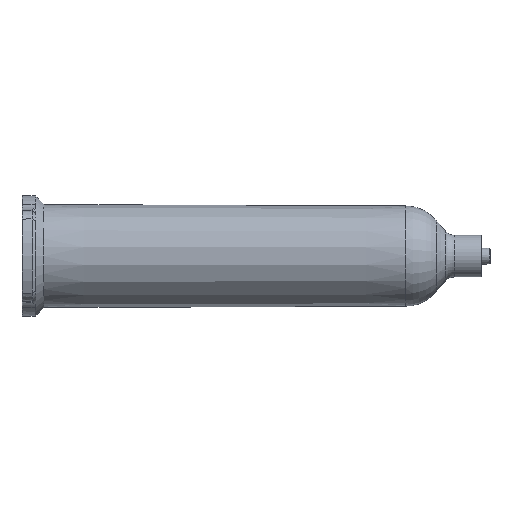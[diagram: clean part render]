
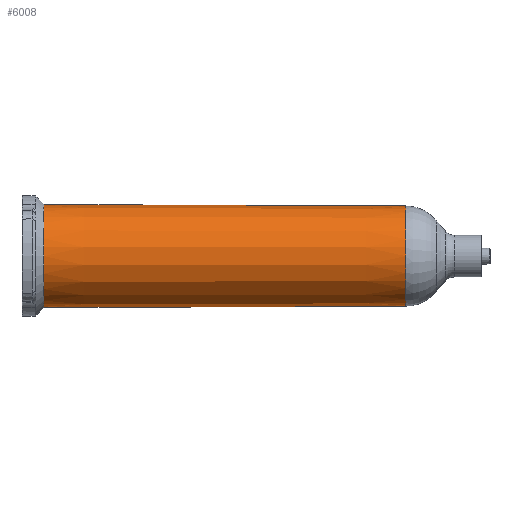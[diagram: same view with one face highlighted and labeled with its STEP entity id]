
A CAD part, front view. The second image highlights one B-rep face of the part: STEP entity #6008.
In plain terms, the highlighted conical face has half-angle 0.216 degrees and reference radius 12.6 mm.
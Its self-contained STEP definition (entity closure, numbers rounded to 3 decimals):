
#17 = DIRECTION ( 'NONE',  ( 0., 0., 1. ) ) ;
#523 = CARTESIAN_POINT ( 'NONE',  ( 96.506, 0., -12.6 ) ) ;
#1011 = VERTEX_POINT ( 'NONE', #12922 ) ;
#1791 = DIRECTION ( 'NONE',  ( -1., 0., -0.004 ) ) ;
#2037 = LINE ( 'NONE', #5218, #10583 ) ;
#2356 = DIRECTION ( 'NONE',  ( 0., 0., 1. ) ) ;
#3008 = AXIS2_PLACEMENT_3D ( 'NONE', #5948, #10079, #9075 ) ;
#3201 = VERTEX_POINT ( 'NONE', #3554 ) ;
#3554 = CARTESIAN_POINT ( 'NONE',  ( 5.5, 0., -12.942 ) ) ;
#4040 = CIRCLE ( 'NONE', #10262, 12.942 ) ;
#4384 = FACE_OUTER_BOUND ( 'NONE', #7777, .T. ) ;
#4726 = EDGE_CURVE ( 'NONE', #3201, #11922, #4040, .T. ) ;
#5054 = AXIS2_PLACEMENT_3D ( 'NONE', #8511, #12636, #2356 ) ;
#5154 = DIRECTION ( 'NONE',  ( -1., 0., 0.004 ) ) ;
#5218 = CARTESIAN_POINT ( 'NONE',  ( 96.506, 0., 12.6 ) ) ;
#5266 = CARTESIAN_POINT ( 'NONE',  ( 5.5, 0., 0. ) ) ;
#5948 = CARTESIAN_POINT ( 'NONE',  ( 96.506, 0., 0. ) ) ;
#6008 = ADVANCED_FACE ( 'NONE', ( #4384 ), #10895, .T. ) ;
#6026 = CIRCLE ( 'NONE', #3008, 12.6 ) ;
#6898 = VECTOR ( 'NONE', #1791, 1000. ) ;
#6965 = CARTESIAN_POINT ( 'NONE',  ( 96.506, 0., -12.6 ) ) ;
#7777 = EDGE_LOOP ( 'NONE', ( #11147, #8862, #13132, #12179 ) ) ;
#8511 = CARTESIAN_POINT ( 'NONE',  ( 96.506, 0., 0. ) ) ;
#8862 = ORIENTED_EDGE ( 'NONE', *, *, #9612, .T. ) ;
#9075 = DIRECTION ( 'NONE',  ( 0., 0., 1. ) ) ;
#9143 = DIRECTION ( 'NONE',  ( -1., 0., 0. ) ) ;
#9225 = EDGE_CURVE ( 'NONE', #11201, #3201, #9786, .T. ) ;
#9360 = CARTESIAN_POINT ( 'NONE',  ( 5.5, 0., 12.942 ) ) ;
#9612 = EDGE_CURVE ( 'NONE', #11201, #1011, #6026, .T. ) ;
#9786 = LINE ( 'NONE', #523, #6898 ) ;
#10042 = EDGE_CURVE ( 'NONE', #1011, #11922, #2037, .T. ) ;
#10079 = DIRECTION ( 'NONE',  ( -1., 0., 0. ) ) ;
#10262 = AXIS2_PLACEMENT_3D ( 'NONE', #5266, #9143, #17 ) ;
#10583 = VECTOR ( 'NONE', #5154, 1000. ) ;
#10895 = CONICAL_SURFACE ( 'NONE', #5054, 12.6, 0.004 ) ;
#11147 = ORIENTED_EDGE ( 'NONE', *, *, #9225, .F. ) ;
#11201 = VERTEX_POINT ( 'NONE', #6965 ) ;
#11922 = VERTEX_POINT ( 'NONE', #9360 ) ;
#12179 = ORIENTED_EDGE ( 'NONE', *, *, #4726, .F. ) ;
#12636 = DIRECTION ( 'NONE',  ( -1., 0., 0. ) ) ;
#12922 = CARTESIAN_POINT ( 'NONE',  ( 96.506, 0., 12.6 ) ) ;
#13132 = ORIENTED_EDGE ( 'NONE', *, *, #10042, .T. ) ;
